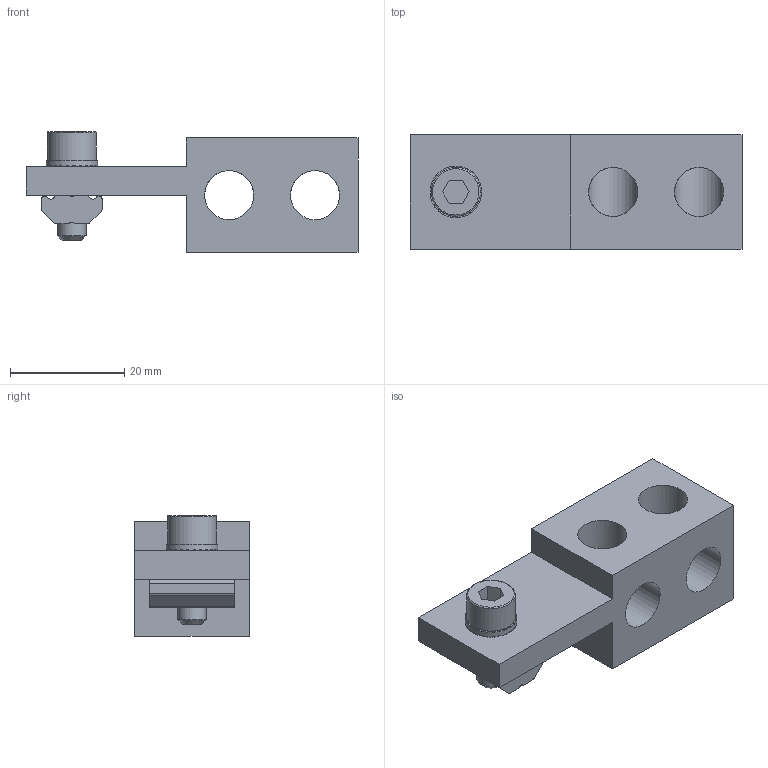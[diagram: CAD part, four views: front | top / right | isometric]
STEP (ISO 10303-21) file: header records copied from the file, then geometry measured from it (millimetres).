
FILE_DESCRIPTION(('STEP AP214'),'1');
FILE_NAME('CA.VTB.JU.241818.stp','2016-09-05T14:23:22',(' '),(' '),'Spatial InterOp 3D',' ',' ');
FILE_SCHEMA(('automotive_design'));
Length unit declared in the file: millimetre
Products named in the file (5): R.5.SCH; V-tcei M 5 x 14; CA.GWP.5U; VTB.JU.241818
Assembly tree (4 placements, depth 2):
  (unnamed)
    R.5.SCH
    V-tcei M 5 x 14
    CA.GWP.5U
    VTB.JU.241818
Bounding box: 58 x 20 x 21.1 mm (x, y, z)
Volume: 12769.9 mm3; surface area: 6831.2 mm2
Topology: 3 solids, 4 shells, 248 faces, 727 edges, 484 vertices
Faces by surface type: plane 224, cylinder 22, cone 1, torus 1
Full cylindrical faces by diameter (mm): 4.2 x1, 5 x1, 5.2 x1, 5.3 x1, 8.5 x1, 8.566 x4, 9 x1
Entity records: 10328 total; most frequent: CARTESIAN_POINT 1493, DIRECTION 1440, ORIENTED_EDGE 1416, EDGE_CURVE 708, AXIS2_PLACEMENT_3D 485, VERTEX_POINT 478, LINE 470, VECTOR 470
